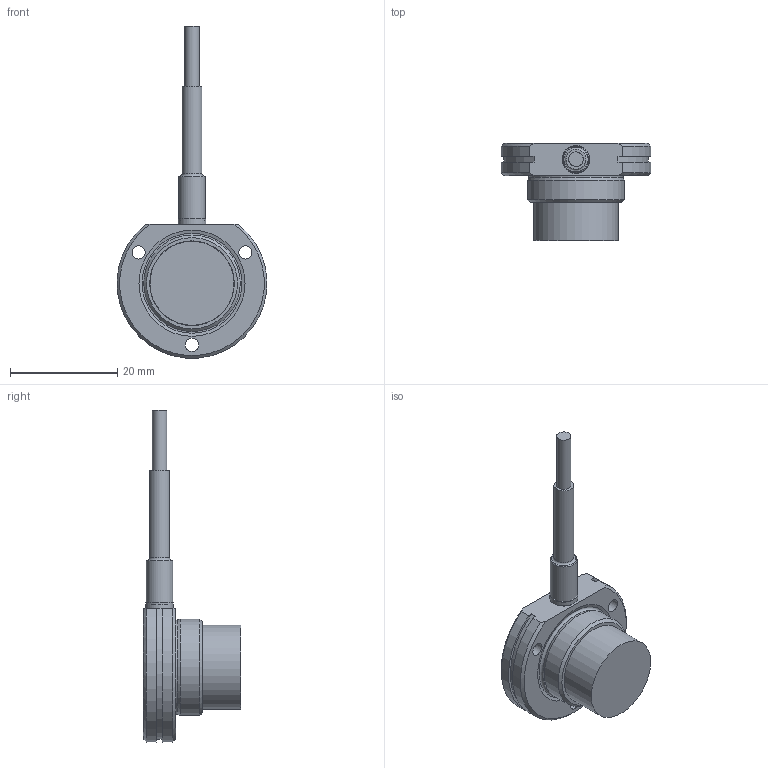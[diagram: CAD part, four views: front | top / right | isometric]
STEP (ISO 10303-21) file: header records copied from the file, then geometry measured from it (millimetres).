
FILE_DESCRIPTION( ( 'STEP AP214' ), '1' );
FILE_NAME( 'N:/Engineering/CAD_Solid/Wirbelstrom/Wirbelstromsensoren/T5/T5-DSC-KR.stp', '2011-12-01T13:25:49', ( ' ' ), ( ' ' ), 'XStep 1.0', ' ', ' ' );
FILE_SCHEMA( ( 'CONFIG_CONTROL_DESIGN) ( )' ) );
Length unit declared in the file: metre
Products named in the file (5): 1; 2; 3; 4; 5
Bounding box: 27.96 x 18.1 x 61.95 mm (x, y, z)
Surface area: 3283.8 mm2 (no closed solid volume)
Topology: 0 solids, 33 shells, 33 faces, 121 edges, 105 vertices
Faces by surface type: cylinder 13, plane 12, cone 5, torus 3
Full cylindrical faces by diameter (mm): 2.459 x3, 2.7 x1, 3.7 x1, 5 x1, 5.2 x1, 15.7 x1, 15.8 x1, 18 x1
Entity records: 1346 total; most frequent: CARTESIAN_POINT 262, DIRECTION 236, AXIS2_PLACEMENT_3D 106, ORIENTED_EDGE 100, EDGE_CURVE 100, VERTEX_POINT 100, CIRCLE 68, FACE_BOUND 62
